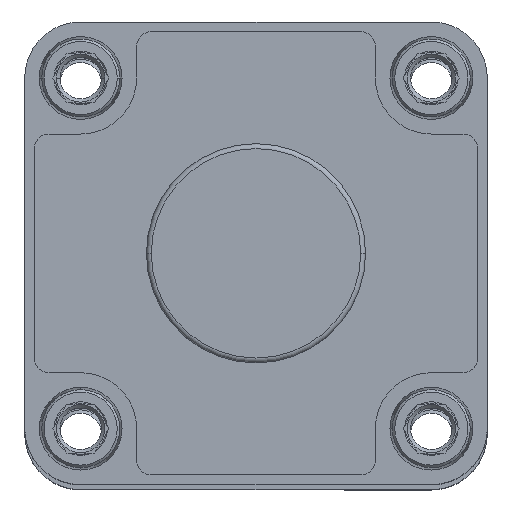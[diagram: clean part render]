
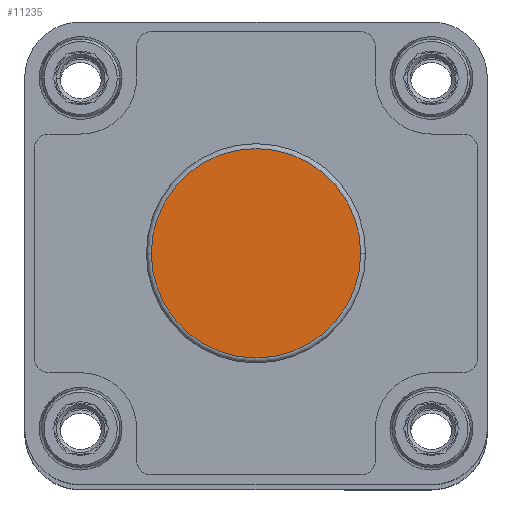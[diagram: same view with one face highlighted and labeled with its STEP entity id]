
A CAD part, top view. The second image highlights one B-rep face of the part: STEP entity #11235.
In plain terms, the highlighted planar face has unit normal (0, 0, 1).
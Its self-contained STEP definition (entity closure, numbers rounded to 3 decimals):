
#875 = CARTESIAN_POINT ( 'NONE',  ( 21.5, 0., 40. ) ) ;
#1557 = CARTESIAN_POINT ( 'NONE',  ( 0., 0., 40. ) ) ;
#1688 = VERTEX_POINT ( 'NONE', #875 ) ;
#2218 = CARTESIAN_POINT ( 'NONE',  ( 47.5, -47.5, 40. ) ) ;
#2273 = AXIS2_PLACEMENT_3D ( 'NONE', #13609, #6633, #14793 ) ;
#2446 = CIRCLE ( 'NONE', #2273, 21.5 ) ;
#2718 = DIRECTION ( 'NONE',  ( 1., 0., 0. ) ) ;
#3379 = DIRECTION ( 'NONE',  ( 1., 0., 0. ) ) ;
#3407 = ORIENTED_EDGE ( 'NONE', *, *, #10263, .T. ) ;
#3417 = CARTESIAN_POINT ( 'NONE',  ( -21.5, 0., 40. ) ) ;
#5207 = AXIS2_PLACEMENT_3D ( 'NONE', #2218, #10365, #3379 ) ;
#5357 = EDGE_CURVE ( 'NONE', #5683, #1688, #12655, .T. ) ;
#5683 = VERTEX_POINT ( 'NONE', #3417 ) ;
#6633 = DIRECTION ( 'NONE',  ( 0., 0., 1. ) ) ;
#8014 = PLANE ( 'NONE',  #5207 ) ;
#9716 = DIRECTION ( 'NONE',  ( 0., 0., 1. ) ) ;
#10213 = AXIS2_PLACEMENT_3D ( 'NONE', #1557, #9716, #2718 ) ;
#10263 = EDGE_CURVE ( 'NONE', #1688, #5683, #2446, .T. ) ;
#10365 = DIRECTION ( 'NONE',  ( 0., 0., 1. ) ) ;
#11188 = EDGE_LOOP ( 'NONE', ( #3407, #13741 ) ) ;
#11235 = ADVANCED_FACE ( 'NONE', ( #12762 ), #8014, .T. ) ;
#12655 = CIRCLE ( 'NONE', #10213, 21.5 ) ;
#12762 = FACE_OUTER_BOUND ( 'NONE', #11188, .T. ) ;
#13609 = CARTESIAN_POINT ( 'NONE',  ( 0., 0., 40. ) ) ;
#13741 = ORIENTED_EDGE ( 'NONE', *, *, #5357, .T. ) ;
#14793 = DIRECTION ( 'NONE',  ( 1., 0., 0. ) ) ;
